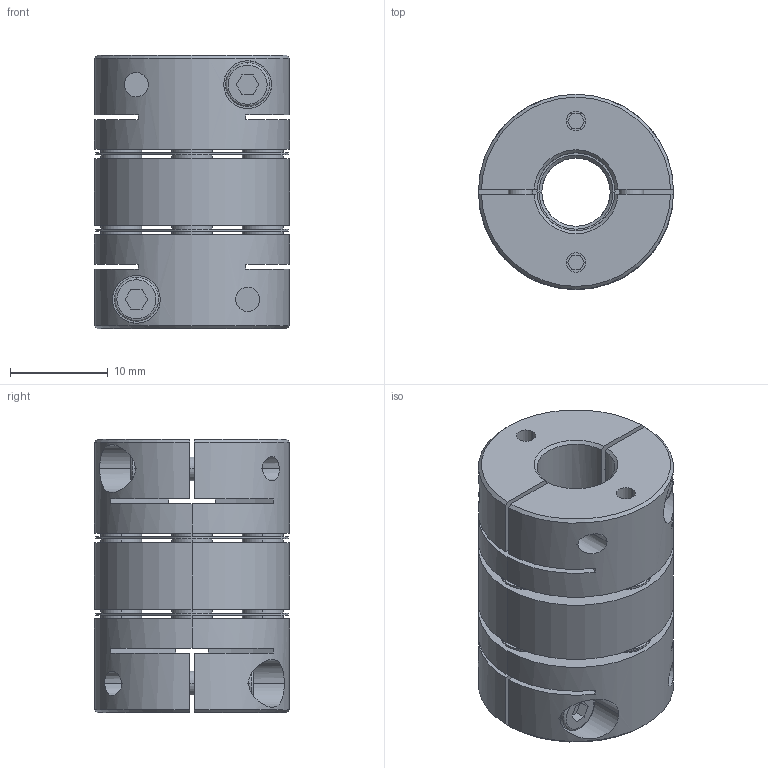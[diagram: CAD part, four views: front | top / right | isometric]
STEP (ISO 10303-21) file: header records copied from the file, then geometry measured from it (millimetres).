
FILE_DESCRIPTION((''),'2;1');
FILE_NAME('LA-20LS-7×8.stp','2015-10-05T09:55:00',(''),(''),'AutoCAD STEP 2000i','AutoCAD 2000i',', , ');
FILE_SCHEMA(('CONFIG_CONTROL_DESIGN'));
Length unit declared in the file: millimetre
Products named in the file (5): LA-20LS-7×8; 忣兜1; HUB-7-2; HUB-7-1; HUB-4-1
Assembly tree (4 placements, depth 2):
  LA-20LS-7×8
    忣兜1
    HUB-7-2
    HUB-7-1
    HUB-4-1
Bounding box: 20 x 20 x 28 mm (x, y, z)
Volume: 6431.8 mm3; surface area: 6078.2 mm2
Topology: 1 solids, 1 shells, 276 faces, 718 edges, 496 vertices
Faces by surface type: cylinder 128, plane 120, torus 16, cone 12
Entity records: 9135 total; most frequent: CARTESIAN_POINT 1893, DIRECTION 1580, ORIENTED_EDGE 1400, EDGE_CURVE 700, AXIS2_PLACEMENT_3D 613, VERTEX_POINT 464, EDGE_LOOP 356, VECTOR 354
